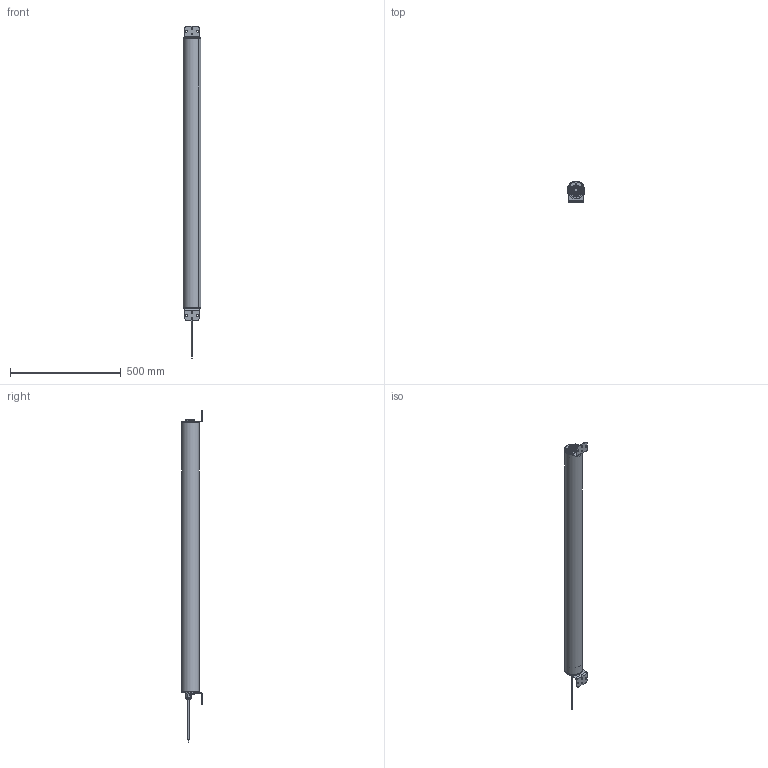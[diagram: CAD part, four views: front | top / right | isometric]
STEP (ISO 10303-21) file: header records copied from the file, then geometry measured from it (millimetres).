
FILE_DESCRIPTION (( 'STEP AP203' ), '1' );
FILE_NAME ('LB9x902.STEP', '2024-08-28T13:57:13', ( '' ), ( '' ), 'SwSTEP 2.0', 'SolidWorks 2021', '' );
FILE_SCHEMA (( 'CONFIG_CONTROL_DESIGN' ));
Length unit declared in the file: millimetre
Products named in the file (7): 006266-C; LB9x902; 000715_1_2; 000039_M5x10_1_2; Cable M12 femelle_1_2; IP69K enclosure adjust_1125; IP69K adjust model_1125
Assembly tree (10 placements, depth 2):
  LB9x902
    IP69K adjust model_1125
    IP69K enclosure adjust_1125
    000039_M5x10_1_2  x4
    000715_1_2
    Cable M12 femelle_1_2
    006266-C  x2
Bounding box: 80 x 95 x 1500.7 mm (x, y, z)
Volume: 3226814.7 mm3; surface area: 942513.8 mm2
Topology: 12 solids, 12 shells, 1217 faces, 3217 edges, 2091 vertices
Faces by surface type: plane 665, cylinder 366, bspline 116, cone 64, sphere 4, torus 2
Entity records: 40306 total; most frequent: CARTESIAN_POINT 12088, ORIENTED_EDGE 5890, DIRECTION 5504, EDGE_CURVE 2945, VERTEX_POINT 1926, AXIS2_PLACEMENT_3D 1855, VECTOR 1794, LINE 1794
